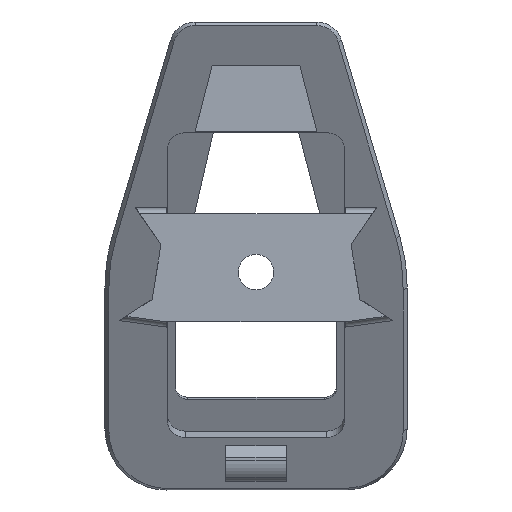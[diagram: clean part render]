
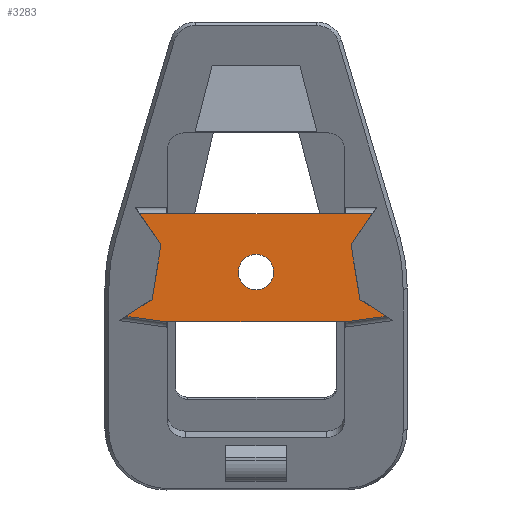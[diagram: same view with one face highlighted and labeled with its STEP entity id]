
A CAD part, front view. The second image highlights one B-rep face of the part: STEP entity #3283.
In plain terms, the highlighted planar face has unit normal (0, -1, 0).
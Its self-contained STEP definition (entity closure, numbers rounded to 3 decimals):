
#234=CARTESIAN_POINT('',(-10.308,349.965,70.32));
#235=VERTEX_POINT('',#234);
#242=CARTESIAN_POINT('',(-14.7,349.965,70.925));
#243=VERTEX_POINT('',#242);
#244=CARTESIAN_POINT('',(-14.7,349.965,70.925));
#245=DIRECTION('',(0.991,0.,-0.137));
#246=VECTOR('',#245,4.433);
#247=LINE('',#244,#246);
#248=EDGE_CURVE('',#243,#235,#247,.T.);
#2975=CARTESIAN_POINT('',(14.7,349.965,70.925));
#2976=VERTEX_POINT('',#2975);
#2983=CARTESIAN_POINT('',(10.092,349.965,70.29));
#2984=VERTEX_POINT('',#2983);
#2985=CARTESIAN_POINT('',(14.7,349.965,70.925));
#2986=DIRECTION('',(-0.991,-0.,-0.137));
#2987=VECTOR('',#2986,4.652);
#2988=LINE('',#2985,#2987);
#2989=EDGE_CURVE('',#2976,#2984,#2988,.T.);
#3007=CARTESIAN_POINT('',(11.749,349.965,72.841));
#3008=VERTEX_POINT('',#3007);
#3015=CARTESIAN_POINT('',(11.749,349.965,72.841));
#3016=DIRECTION('',(0.839,-0.,-0.545));
#3017=VECTOR('',#3016,3.519);
#3018=LINE('',#3015,#3017);
#3019=EDGE_CURVE('',#3008,#2976,#3018,.T.);
#3049=CARTESIAN_POINT('',(10.738,349.965,79.));
#3050=VERTEX_POINT('',#3049);
#3057=CARTESIAN_POINT('',(10.738,349.965,79.));
#3058=DIRECTION('',(0.162,-0.,-0.987));
#3059=VECTOR('',#3058,6.241);
#3060=LINE('',#3057,#3059);
#3061=EDGE_CURVE('',#3050,#3008,#3060,.T.);
#3084=CARTESIAN_POINT('',(13.153,349.965,82.518));
#3085=VERTEX_POINT('',#3084);
#3092=CARTESIAN_POINT('',(13.153,349.965,82.518));
#3093=DIRECTION('',(-0.566,-0.,-0.824));
#3094=VECTOR('',#3093,4.267);
#3095=LINE('',#3092,#3094);
#3096=EDGE_CURVE('',#3085,#3050,#3095,.T.);
#3117=CARTESIAN_POINT('',(-13.153,349.965,82.518));
#3118=VERTEX_POINT('',#3117);
#3125=CARTESIAN_POINT('',(13.153,349.965,82.518));
#3126=DIRECTION('',(-1.,-0.,0.));
#3127=VECTOR('',#3126,26.306);
#3128=LINE('',#3125,#3127);
#3129=EDGE_CURVE('',#3085,#3118,#3128,.T.);
#3162=CARTESIAN_POINT('',(-11.749,349.965,72.841));
#3163=VERTEX_POINT('',#3162);
#3164=CARTESIAN_POINT('',(-11.749,349.965,72.841));
#3165=DIRECTION('',(-0.839,0.,-0.545));
#3166=VECTOR('',#3165,3.519);
#3167=LINE('',#3164,#3166);
#3168=EDGE_CURVE('',#3163,#243,#3167,.T.);
#3198=CARTESIAN_POINT('',(-10.738,349.965,79.));
#3199=VERTEX_POINT('',#3198);
#3200=CARTESIAN_POINT('',(-10.738,349.965,79.));
#3201=DIRECTION('',(-0.162,0.,-0.987));
#3202=VECTOR('',#3201,6.241);
#3203=LINE('',#3200,#3202);
#3204=EDGE_CURVE('',#3199,#3163,#3203,.T.);
#3223=CARTESIAN_POINT('',(-13.153,349.965,82.518));
#3224=DIRECTION('',(0.566,0.,-0.824));
#3225=VECTOR('',#3224,4.267);
#3226=LINE('',#3223,#3225);
#3227=EDGE_CURVE('',#3118,#3199,#3226,.T.);
#3242=CARTESIAN_POINT('',(0.,349.965,87.925));
#3243=DIRECTION('',(0.,1.,0.));
#3244=DIRECTION('',(0.,0.,1.));
#3245=AXIS2_PLACEMENT_3D('',#3242,#3243,#3244);
#3246=PLANE('',#3245);
#3247=CARTESIAN_POINT('',(-0.,349.965,73.925));
#3248=VERTEX_POINT('',#3247);
#3249=CARTESIAN_POINT('',(0.,349.965,75.925));
#3250=DIRECTION('',(0.,-1.,0.));
#3251=DIRECTION('',(0.,0.,-1.));
#3252=AXIS2_PLACEMENT_3D('',#3249,#3250,#3251);
#3253=CIRCLE('',#3252,2.);
#3254=EDGE_CURVE('',#3248,#3248,#3253,.T.);
#3255=ORIENTED_EDGE('',*,*,#3254,.F.);
#3256=EDGE_LOOP('',(#3255));
#3257=FACE_BOUND('',#3256,.T.);
#3258=ORIENTED_EDGE('',*,*,#3129,.T.);
#3259=ORIENTED_EDGE('',*,*,#3227,.T.);
#3260=ORIENTED_EDGE('',*,*,#3204,.T.);
#3261=ORIENTED_EDGE('',*,*,#3168,.T.);
#3262=ORIENTED_EDGE('',*,*,#248,.T.);
#3263=CARTESIAN_POINT('',(-10.308,349.965,70.29));
#3264=VERTEX_POINT('',#3263);
#3265=CARTESIAN_POINT('',(-10.308,349.965,70.32));
#3266=DIRECTION('',(-0.,-0.,-1.));
#3267=VECTOR('',#3266,0.03);
#3268=LINE('',#3265,#3267);
#3269=EDGE_CURVE('',#235,#3264,#3268,.T.);
#3270=ORIENTED_EDGE('',*,*,#3269,.T.);
#3271=CARTESIAN_POINT('',(-10.308,349.965,70.29));
#3272=DIRECTION('',(1.,0.,-0.));
#3273=VECTOR('',#3272,20.4);
#3274=LINE('',#3271,#3273);
#3275=EDGE_CURVE('',#3264,#2984,#3274,.T.);
#3276=ORIENTED_EDGE('',*,*,#3275,.T.);
#3277=ORIENTED_EDGE('',*,*,#2989,.F.);
#3278=ORIENTED_EDGE('',*,*,#3019,.F.);
#3279=ORIENTED_EDGE('',*,*,#3061,.F.);
#3280=ORIENTED_EDGE('',*,*,#3096,.F.);
#3281=EDGE_LOOP('',(#3258,#3259,#3260,#3261,#3262,#3270,#3276,#3277,#3278,#3279,#3280));
#3282=FACE_BOUND('',#3281,.T.);
#3283=ADVANCED_FACE('',(#3257,#3282),#3246,.F.);
